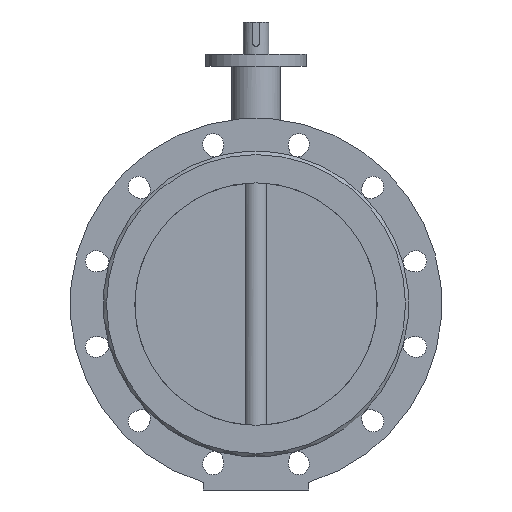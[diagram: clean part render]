
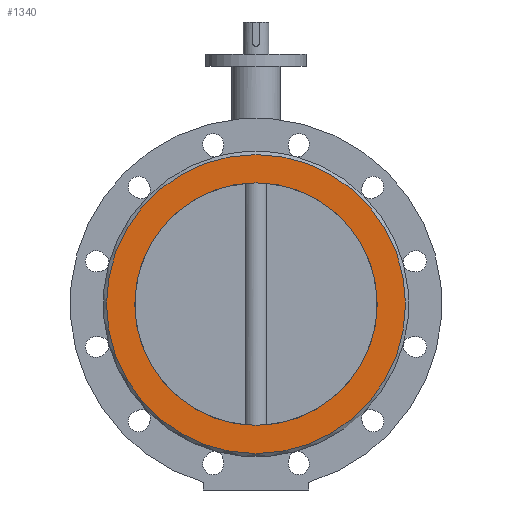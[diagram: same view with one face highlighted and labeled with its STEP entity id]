
A CAD part, front view. The second image highlights one B-rep face of the part: STEP entity #1340.
In plain terms, the highlighted planar face has unit normal (0, -1, 0).
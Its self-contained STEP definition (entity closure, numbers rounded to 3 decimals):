
#1340=ADVANCED_FACE('',(#2638,#2640),#2642,.T.);
#2638=FACE_BOUND('',#2639,.T.);
#2639=EDGE_LOOP('',(#3638));
#2640=FACE_BOUND('',#2641,.T.);
#2641=EDGE_LOOP('',(#3639));
#2642=PLANE('',#2643);
#2643=AXIS2_PLACEMENT_3D('',#2644,#2645,#2646);
#2644=CARTESIAN_POINT('',(0.,-89.,0.));
#2645=DIRECTION('',(0.,-1.,0.));
#2646=DIRECTION('',(0.,0.,1.));
#3638=ORIENTED_EDGE('',*,*,#4134,.F.);
#3639=ORIENTED_EDGE('',*,*,#4137,.T.);
#4134=EDGE_CURVE('',#4889,#4889,#4890,.T.);
#4137=EDGE_CURVE('',#4895,#4895,#4896,.T.);
#4889=VERTEX_POINT('',#7029);
#4890=CIRCLE('',#7030,185.);
#4895=VERTEX_POINT('',#7044);
#4896=CIRCLE('',#7045,150.);
#7029=CARTESIAN_POINT('',(0.,-89.,185.));
#7030=AXIS2_PLACEMENT_3D('',#7031,#7032,#7033);
#7031=CARTESIAN_POINT('',(0.,-89.,0.));
#7032=DIRECTION('',(0.,1.,0.));
#7033=DIRECTION('',(0.,0.,1.));
#7044=CARTESIAN_POINT('',(0.,-89.,150.));
#7045=AXIS2_PLACEMENT_3D('',#7046,#7047,#7048);
#7046=CARTESIAN_POINT('',(0.,-89.,0.));
#7047=DIRECTION('',(0.,1.,0.));
#7048=DIRECTION('',(0.,0.,1.));
